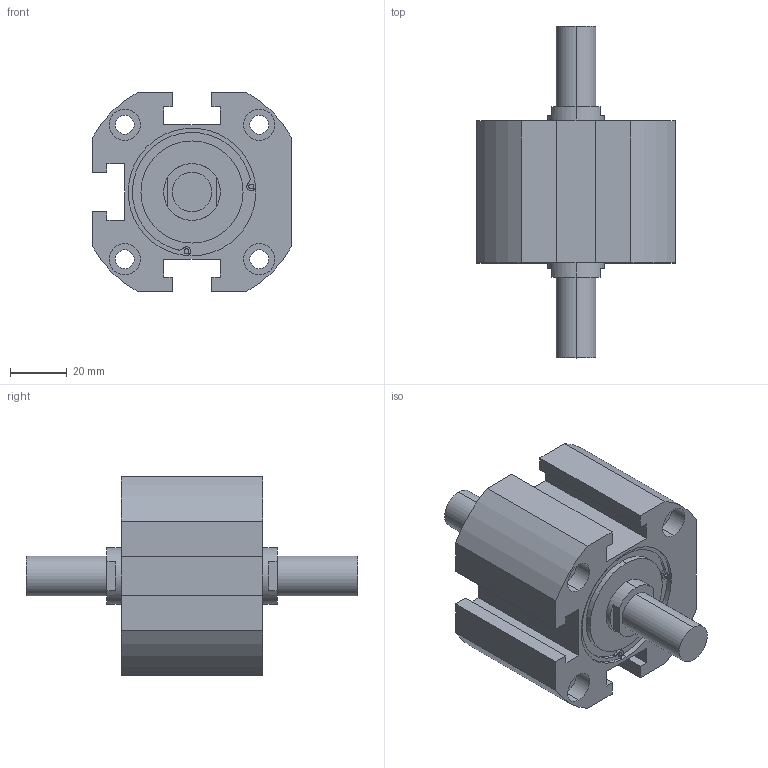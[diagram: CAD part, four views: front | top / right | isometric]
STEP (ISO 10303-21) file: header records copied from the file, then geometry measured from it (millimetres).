
FILE_DESCRIPTION (( 'STEP AP203' ), '1' );
FILE_NAME ('XG#M7-50D-10.STEP', '2016-05-24T02:24:44', ( '' ), ( '' ), 'SwSTEP 2.0', 'SolidWorks 2014', '' );
FILE_SCHEMA (( 'CONFIG_CONTROL_DESIGN' ));
Length unit declared in the file: millimetre
Products named in the file (1): XG#M7-50D-10
Bounding box: 70 x 117 x 70 mm (x, y, z)
Volume: 193997.9 mm3; surface area: 34682.6 mm2
Topology: 1 solids, 1 shells, 147 faces, 361 edges, 236 vertices
Faces by surface type: cylinder 77, plane 62, cone 8
Entity records: 4466 total; most frequent: DIRECTION 823, CARTESIAN_POINT 741, ORIENTED_EDGE 714, EDGE_CURVE 357, AXIS2_PLACEMENT_3D 318, VERTEX_POINT 236, VECTOR 187, LINE 187
